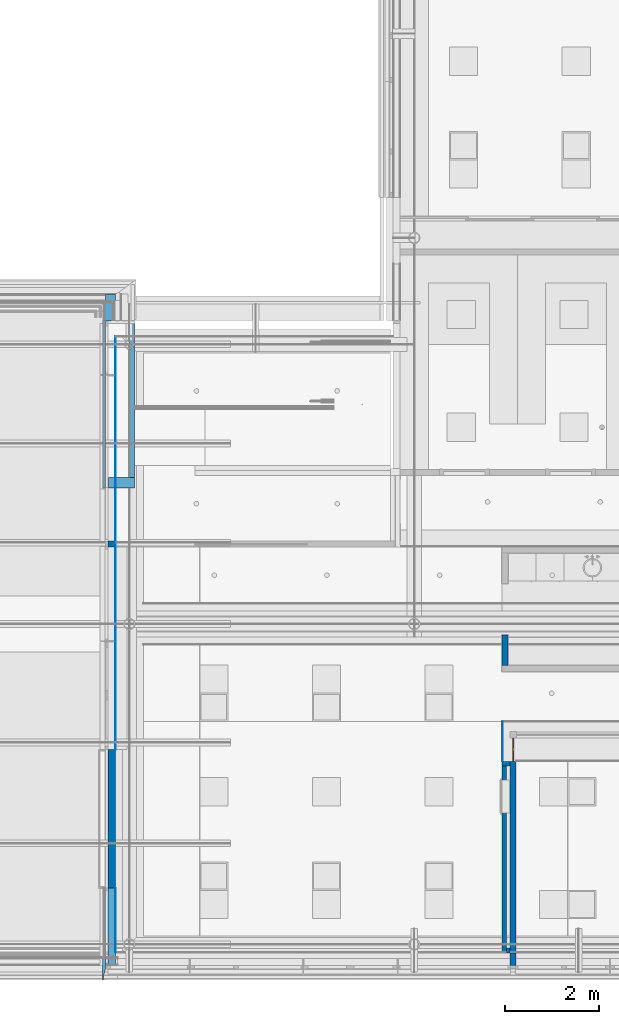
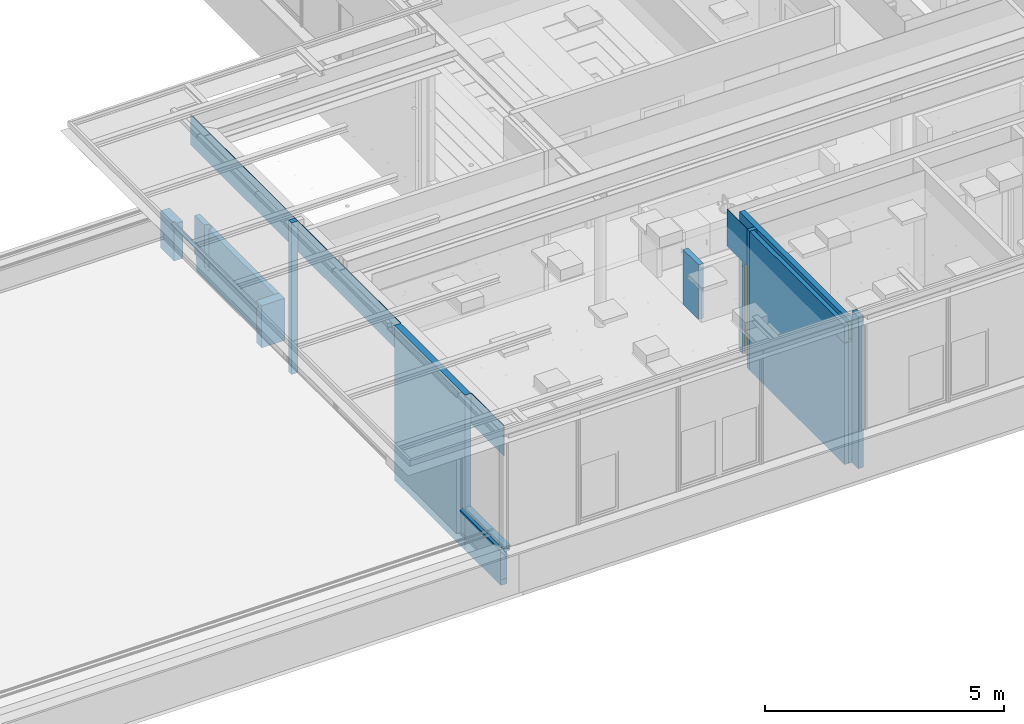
# One storey, part 39 of 260: 17 walls, 1 window, 2 openings.
"""IFC2X3 building model written with IfcOpenShell, lengths in millimetres."""

from ifc_helpers import new_model, entity, si_unit, converted_unit, derived_unit, money_unit, direction, frame, origin_with_axes, place, context, subcontext, project, spatial, open_shell, faceted_brep, surface_model, material, type_object, element, fill, save


model = new_model("IFC2X3")

# Units and contexts
model_context = context("Model", 3, precision=0.01, world=origin_with_axes(), true_north=direction((0.0, 1.0)))
plan_context = context("Plan", 3, precision=0.01, world=origin_with_axes(), true_north=direction((0.0, 1.0)))
body_context = subcontext(model_context, "Body", "Model", "MODEL_VIEW")
ifc_project = project(units=[si_unit("LENGTHUNIT", "METRE", prefix="MILLI"), si_unit("AREAUNIT", "SQUARE_METRE"), si_unit("VOLUMEUNIT", "CUBIC_METRE"), converted_unit("PLANEANGLEUNIT", "DEGREE", entity("IfcPlaneAngleMeasure", 0.0174532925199), si_unit("PLANEANGLEUNIT", "RADIAN"), dimensions=[0, 0, 0, 0, 0, 0, 0]), money_unit("EUR"), converted_unit("TIMEUNIT", "Year", entity("IfcTimeMeasure", 31556926.0), si_unit("TIMEUNIT", "SECOND"), dimensions=[0, 0, 1, 0, 0, 0, 0]), si_unit("MASSUNIT", "GRAM", prefix="KILO"), si_unit("THERMODYNAMICTEMPERATUREUNIT", "DEGREE_CELSIUS"), si_unit("LUMINOUSINTENSITYUNIT", "LUMEN"), si_unit("ENERGYUNIT", "JOULE", prefix="MEGA"), derived_unit("THERMALCONDUCTANCEUNIT", [(si_unit("POWERUNIT", "WATT"), 1), (si_unit("LENGTHUNIT", "METRE"), -1), (si_unit("THERMODYNAMICTEMPERATUREUNIT", "KELVIN"), -1)]), derived_unit("SPECIFICHEATCAPACITYUNIT", [(si_unit("ENERGYUNIT", "JOULE"), 1), (si_unit("MASSUNIT", "GRAM", prefix="KILO"), -1), (si_unit("THERMODYNAMICTEMPERATUREUNIT", "KELVIN"), -1)]), derived_unit("MASSDENSITYUNIT", [(si_unit("MASSUNIT", "GRAM", prefix="KILO"), 1), (si_unit("VOLUMEUNIT", "CUBIC_METRE"), -1)])], contexts=[model_context, plan_context])

# Site, building, storey
site_placement = place(None, origin_with_axes())
site = spatial("IfcSite", under=ifc_project, at=site_placement, Name="Site", CompositionType="ELEMENT")
building_placement = place(site_placement, origin_with_axes())
building = spatial("IfcBuilding", under=site, at=building_placement, Name="Naam gebouw", CompositionType="ELEMENT")
storey_placement = place(building_placement, frame((0.0, 0.0, 3960.0), z_axis=(0.0, 0.0, 1.0), x_axis=(1.0, 0.0, 0.0)))
storey = spatial("IfcBuildingStorey", under=building, at=storey_placement, Name="verdieping", CompositionType="ELEMENT", Elevation=3960.0)

# Wall, opening, window
ifc_material_1 = material(Name="ALG - LICHTE SCHEIDINGSWAND")
wall_type_1 = type_object("IfcWallType", Name="ALG LSW 125 125", PredefinedType="NOTDEFINED")
wall_1_placement = place(storey_placement, frame((26745.0, 9825.0, 0.0), z_axis=(0.0, 0.0, 1.0), x_axis=(0.0, -1.0, 0.0)))
wall_1 = element("IfcWall", 1, at=wall_1_placement, inside=storey, type_object=wall_type_1, material=ifc_material_1, Name="22_GF 125 ECO DGS/2.75.2A", context=body_context, shape_type="Brep", body=[
    faceted_brep([(125.0, 0.0, 0.0), (125.0, 0.0, 2600.0), (132.0, 0.0, 2600.0), (132.0, 0.0, 0.0), (0.0, -125.0, 2600.0), (0.0, -125.0, 0.0), (132.0, -125.0, 2600.0), (132.0, -125.0, 0.0)], [[[0, 1, 2, 3]], [[4, 1, 0, 5]], [[1, 4, 6, 2]], [[7, 3, 2, 6]], [[5, 0, 3, 7]], [[4, 5, 7, 6]]]),
    faceted_brep([(4705.0, 0.0, 0.0), (625.0, 0.0, 0.0), (625.0, 0.0, 2600.0), (625.0, 0.0, 2612.0), (0.0, 0.0, 2612.0), (0.0, 0.0, 3560.0), (4693.0, 0.0, 3560.0), (4693.0, 0.0, 3112.0), (4345.0, 0.0, 3112.0), (4345.0, 0.0, 3100.0), (4705.0, 0.0, 3100.0), (625.0, -125.0, 0.0), (4705.0, -125.0, 0.0), (625.0, -125.0, 2600.0), (625.0, -125.0, 2612.0), (0.0, -125.0, 2612.0), (0.0, -125.0, 3560.0), (4693.0, -125.0, 3560.0), (4693.0, -125.0, 3112.0), (4345.0, -125.0, 3112.0), (4345.0, -125.0, 3100.0), (4705.0, -125.0, 3100.0)], [[[0, 1, 2, 3, 4, 5, 6, 7, 8, 9, 10]], [[11, 1, 0, 12]], [[13, 2, 1, 11]], [[3, 2, 13, 14]], [[15, 4, 3, 14]], [[4, 15, 16, 5]], [[16, 17, 6, 5]], [[18, 7, 6, 17]], [[8, 7, 18, 19]], [[9, 8, 19, 20]], [[9, 20, 21, 10]], [[0, 10, 21, 12]], [[17, 16, 15, 14, 13, 11, 12, 21, 20, 19, 18]]]),
])
opening_1_placement = place(wall_1_placement, frame((378.5, 0.0, 0.0), z_axis=(0.0, 0.0, 1.0), x_axis=(1.0, 0.0, 0.0)))
opening_1 = element("IfcOpeningElement", 2, at=opening_1_placement, cuts=wall_1, Name="31_10.03", context=body_context, shape_type="Brep", body=[
    faceted_brep([(246.5, 125.0, 0.0), (246.5, 125.0, 2600.0), (246.5, -72.5, 2600.0), (246.5, -72.5, 0.0), (-246.5, 125.0, 0.0), (-246.5, 125.0, 2600.0), (-246.5, -72.5, 2600.0), (-246.5, -72.5, 0.0)], [[[0, 1, 2, 3]], [[0, 4, 5, 1]], [[1, 5, 6, 2]], [[3, 2, 6, 7]], [[4, 0, 3, 7]], [[5, 4, 7, 6]]]),
    faceted_brep([(246.5, -250.0, 2600.0), (246.5, -250.0, 0.0), (246.5, -72.5, 0.0), (246.5, -72.5, 2600.0), (-246.5, -250.0, 2600.0), (-246.5, -250.0, 0.0), (-246.5, -72.5, 0.0), (-246.5, -72.5, 2600.0)], [[[0, 1, 2, 3]], [[0, 4, 5, 1]], [[1, 5, 6, 2]], [[3, 2, 6, 7]], [[4, 0, 3, 7]], [[5, 4, 7, 6]]]),
])
window_style = type_object("IfcWindowStyle", Name="R1 25", ConstructionType="NOTDEFINED", OperationType="SINGLE_PANEL", ParameterTakesPrecedence=False, Sizeable=False)
window_placement = place(opening_1_placement, frame((-246.5, 0.0, 0.0), z_axis=(0.0, 0.0, 1.0), x_axis=(1.0, 0.0, 0.0)))
window = element("IfcWindow", 3, at=window_placement, inside=storey, type_object=window_style, Name="31_10.03", ObjectType="WINDOW", OverallHeight=2600.0, OverallWidth=493.0, context=body_context, shape_type="SurfaceModel", body=[
    faceted_brep([(20.0, -72.5, 2580.0), (20.0, -52.5, 2580.0), (0.0, -52.5, 2580.0), (0.0, -72.5, 2580.0), (20.0, -72.5, 20.0), (20.0, -52.5, 20.0), (0.0, -52.5, 20.0), (0.0, -72.5, 20.0)], [[[0, 1, 2, 3]], [[4, 5, 1, 0]], [[1, 5, 6, 2]], [[3, 2, 6, 7]], [[0, 3, 7, 4]], [[7, 6, 5, 4]]]),
    faceted_brep([(473.0, -72.5, 20.0), (473.0, -52.5, 20.0), (493.0, -52.5, 20.0), (493.0, -72.5, 20.0), (473.0, -72.5, 2580.0), (473.0, -52.5, 2580.0), (493.0, -52.5, 2580.0), (493.0, -72.5, 2580.0)], [[[0, 1, 2, 3]], [[4, 5, 1, 0]], [[1, 5, 6, 2]], [[3, 2, 6, 7]], [[0, 3, 7, 4]], [[7, 6, 5, 4]]]),
    faceted_brep([(20.0, -72.5, 20.0), (20.0, -52.5, 20.0), (0.0, -52.5, 20.0), (0.0, -72.5, 20.0), (473.0, -72.5, 20.0), (473.0, -52.5, 20.0), (493.0, -52.5, 20.0), (493.0, -52.5, 0.0), (0.0, -52.5, 0.0), (0.0, -72.5, 0.0), (493.0, -72.5, 0.0), (493.0, -72.5, 20.0)], [[[0, 1, 2, 3]], [[4, 5, 1, 0]], [[1, 5, 6, 7, 8, 2]], [[3, 2, 8, 9]], [[0, 3, 9, 10, 11, 4]], [[11, 6, 5, 4]], [[10, 7, 6, 11]], [[9, 8, 7, 10]]]),
    faceted_brep([(473.0, -72.5, 2580.0), (473.0, -52.5, 2580.0), (493.0, -52.5, 2580.0), (493.0, -72.5, 2580.0), (20.0, -72.5, 2580.0), (20.0, -52.5, 2580.0), (0.0, -52.5, 2580.0), (0.0, -52.5, 2600.0), (493.0, -52.5, 2600.0), (493.0, -72.5, 2600.0), (0.0, -72.5, 2600.0), (0.0, -72.5, 2580.0)], [[[0, 1, 2, 3]], [[4, 5, 1, 0]], [[1, 5, 6, 7, 8, 2]], [[3, 2, 8, 9]], [[0, 3, 9, 10, 11, 4]], [[11, 6, 5, 4]], [[10, 7, 6, 11]], [[9, 8, 7, 10]]]),
    surface_model("IfcShellBasedSurfaceModel", [(20.0, -72.5, 20.0), (473.0, -72.5, 20.0), (473.0, -72.5, 2580.0), (20.0, -72.5, 2580.0)], [open_shell([[[0, 1, 2, 3]]])]),
    surface_model("IfcShellBasedSurfaceModel", [(20.0, -52.5, 20.0), (20.0, -52.5, 2580.0), (473.0, -52.5, 2580.0), (473.0, -52.5, 20.0)], [open_shell([[[0, 1, 2, 3]]])]),
])
fill(opening_1, window)

# Walls
wall_2_placement = place(storey_placement, frame((26570.0, 11240.0000434, 0.0), z_axis=(0.0, 0.0, 1.0), x_axis=(0.0, 1.0, 0.0)))
element("IfcWall", 4, at=wall_2_placement, inside=storey, type_object=wall_type_1, material=ifc_material_1, Name="22_GF 125 ECO DGS/2.75.3A", context=body_context, shape_type="Brep", body=[
    faceted_brep([(0.0, 0.0, 2.0), (650.0, 0.0, 2.0), (650.0, 0.0, 1400.0), (0.0, 0.0, 1400.0), (650.0, 125.0, 2.0), (0.0, 125.0, 2.0), (650.0, 125.0, 1400.0), (0.0, 125.0, 1400.0)], [[[0, 1, 2, 3]], [[4, 1, 0, 5]], [[1, 4, 6, 2]], [[7, 3, 2, 6]], [[5, 0, 3, 7]], [[4, 5, 7, 6]]]),
])
wall_3_placement = place(storey_placement, frame((18205.0, 13765.0000434, 0.0), z_axis=(0.0, 0.0, 1.0), x_axis=(-1.0, 0.0, 0.0)))
element("IfcWall", 5, at=wall_3_placement, inside=storey, type_object=wall_type_1, material=ifc_material_1, Name="22_GF 125 ECO DGS/2.75.2A", context=body_context, shape_type="Brep", body=[
    faceted_brep([(0.0, 0.0, 3880.0), (0.0, -125.0, 3880.0), (150.0, -125.0, 3880.0), (150.0, 0.0, 3880.0), (0.0, 0.0, 0.0), (0.0, -125.0, 0.0), (150.0, -125.0, 0.0), (150.0, 0.0, 0.0)], [[[0, 1, 2, 3]], [[4, 5, 1, 0]], [[1, 5, 6, 2]], [[7, 3, 2, 6]], [[4, 0, 3, 7]], [[5, 4, 7, 6]]]),
])

# Wall, opening
wall_4_placement = place(storey_placement, frame((18615.0, 18523.0, -400.0), z_axis=(0.0, 0.0, 1.0), x_axis=(0.0, -1.0, 0.0)))
wall_4 = element("IfcWall", 6, at=wall_4_placement, inside=storey, type_object=wall_type_1, material=ifc_material_1, Name="21_GF 125 ECO DGS/2.75.3A", context=body_context, shape_type="Brep", body=[
    faceted_brep([(346.243334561, -110.708946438, 320.000000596), (539.756664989, -110.708949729, 320.000000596), (539.849999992, -110.0, 320.000000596), (536.549916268, -84.9333754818, 320.000000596), (526.874560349, -61.575, 320.000000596), (511.48329175, -41.5167082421, 320.000000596), (491.424999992, -26.1254396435, 320.000000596), (468.06662451, -16.4500837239, 320.000000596), (442.999999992, -13.15, 320.000000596), (417.933375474, -16.4500837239, 320.000000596), (394.574999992, -26.1254396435, 320.000000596), (374.516708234, -41.5167082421, 320.000000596), (359.125439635, -61.575, 320.000000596), (349.450083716, -84.9333754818, 320.000000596), (346.149999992, -110.0, 320.000000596), (3023.00003837, -110.708991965, 320.0), (0.0, -110.708940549, 320.0), (0.0, -110.708940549, 0.0), (3023.00003837, -110.708991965, 0.0), (537.875212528, -125.0, 320.000000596), (537.875212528, -125.0, 1400.0), (539.849999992, -110.0, 1400.0), (536.549916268, -84.9333754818, 1400.0), (526.874560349, -61.575, 1400.0), (511.48329175, -41.5167082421, 1400.0), (491.424999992, -26.1254396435, 1400.0), (468.06662451, -16.4500837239, 1400.0), (442.999999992, -13.15, 1400.0), (417.933375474, -16.4500837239, 1400.0), (394.574999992, -26.1254396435, 1400.0), (374.516708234, -41.5167082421, 1400.0), (359.125439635, -61.575, 1400.0), (349.450083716, -84.9333754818, 1400.0), (346.149999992, -110.0, 1400.0), (348.124787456, -125.0, 1400.0), (348.124787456, -125.0, 320.000000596), (3277.99995655, -125.0, 320.0), (3023.00003837, 0.0, 320.0), (3277.99995655, 0.0, 320.0), (0.0, -125.0, 320.0), (0.0, -125.0, 400.0), (0.0, 0.0, 400.0), (0.0, 0.0, 0.0), (3023.00003837, 0.0, 0.0), (3277.99995655, -125.0, 1400.0), (3277.99995655, 0.0, 1400.0), (-62.0, 0.0, 1400.0), (-62.0, -125.0, 1400.0), (-62.0, -125.0, 400.0), (-62.0, 0.0, 400.0)], [[[0, 1, 2, 3, 4, 5, 6, 7, 8, 9, 10, 11, 12, 13, 14]], [[15, 1, 0, 16, 17, 18]], [[19, 20, 21, 2, 1]], [[2, 21, 22, 3]], [[3, 22, 23, 4]], [[4, 23, 24, 5]], [[5, 24, 25, 6]], [[6, 25, 26, 7]], [[7, 26, 27, 8]], [[8, 27, 28, 9]], [[9, 28, 29, 10]], [[10, 29, 30, 11]], [[11, 30, 31, 12]], [[12, 31, 32, 13]], [[13, 32, 33, 14]], [[14, 33, 34, 35, 0]], [[36, 19, 1, 15, 37, 38]], [[16, 0, 35, 39]], [[17, 16, 39, 40, 41, 42]], [[17, 42, 43, 18]], [[15, 18, 43, 37]], [[44, 20, 19, 36]], [[30, 29, 28, 27, 26, 25, 24, 23, 22, 21, 20, 44, 45, 46, 47, 34, 33, 32, 31]], [[39, 35, 34, 47, 48, 40]], [[45, 38, 37, 43, 42, 41, 49, 46]], [[44, 36, 38, 45]], [[48, 49, 41, 40]], [[49, 48, 47, 46]]]),
])
opening_2_placement = place(wall_4_placement, frame((1423.0, 0.0, -3560.0), z_axis=(0.0, 0.0, 1.0), x_axis=(1.0, 0.0, 0.0)))
element("IfcOpeningElement", 7, at=opening_2_placement, cuts=wall_4, Name="32_-", context=body_context, shape_type="Brep", body=[
    faceted_brep([(-800.0, -125.0, 0.0), (-800.0, -125.0, 2600.0), (-800.0, 250.0, 2600.0), (-800.0, 250.0, 0.0), (800.0, -125.0, 0.0), (800.0, -125.0, 2600.0), (800.0, 250.0, 2600.0), (800.0, 250.0, 0.0)], [[[0, 1, 2, 3]], [[0, 4, 5, 1]], [[1, 5, 6, 2]], [[3, 2, 6, 7]], [[4, 0, 3, 7]], [[5, 4, 7, 6]]]),
])

# Walls
wall_5_placement = place(storey_placement, frame((26682.5, 5120.0, 0.0), z_axis=(0.0, 0.0, 1.0), x_axis=(0.0, -1.0, 0.0)))
element("IfcWall", 8, at=wall_5_placement, inside=storey, type_object=wall_type_1, material=ifc_material_1, Name="22_GF 125 ECO DGS/2.75.2A", context=body_context, shape_type="Brep", body=[
    faceted_brep([(0.0, 62.5, 3880.0), (0.0, -62.5, 3880.0), (270.0, -62.5, 3880.0), (270.0, 62.5, 3880.0), (0.0, 62.5, 0.0), (0.0, -62.5, 0.0), (270.0, -62.5, 0.0), (270.0, 62.5, 0.0)], [[[0, 1, 2, 3]], [[4, 5, 1, 0]], [[1, 5, 6, 2]], [[7, 3, 2, 6]], [[4, 0, 3, 7]], [[5, 4, 7, 6]]]),
])
wall_type_2 = type_object("IfcWallType", Name="44 koof 50", PredefinedType="NOTDEFINED")
wall_6_placement = place(storey_placement, frame((26445.0, 10050.0, 2600.0), z_axis=(0.0, 0.0, 1.0), x_axis=(0.0, -1.0, 0.0)))
element("IfcWall", 9, at=wall_6_placement, inside=storey, type_object=wall_type_2, material=ifc_material_1, Name="21_22 betonwand", context=body_context, shape_type="Brep", body=[
    faceted_brep([(850.0, 12.0, 960.0), (850.0, 12.0, 12.0), (12.0, 12.0, 12.0), (12.0, 12.0, 960.0), (850.0, 0.0, 960.0), (850.0, 0.0, 12.0), (12.0, 0.0, 12.0), (12.0, 0.0, 960.0)], [[[0, 1, 2, 3]], [[4, 5, 1, 0]], [[5, 6, 2, 1]], [[3, 2, 6, 7]], [[3, 7, 4, 0]], [[7, 6, 5, 4]]]),
])
wall_type_3 = type_object("IfcWallType", Name="ALG LSW 100 voorzetwand 100", PredefinedType="NOTDEFINED")
wall_7_placement = place(storey_placement, frame((26745.0, 5120.0, 0.0), z_axis=(0.0, 0.0, 1.0), x_axis=(-1.0, 0.0, 0.0)))
element("IfcWall", 10, at=wall_7_placement, inside=storey, type_object=wall_type_3, material=ifc_material_1, Name="22_GF 125 ECO DGS/2.75.2A", context=body_context, shape_type="Brep", body=[
    faceted_brep([(200.0, -100.0, 3100.0), (200.0, 0.0, 3100.0), (125.0, 0.0, 3100.0), (125.0, -100.0, 3100.0), (200.0, -100.0, 0.0), (200.0, 0.0, 0.0), (125.0, 0.0, 0.0), (125.0, -100.0, 0.0)], [[[0, 1, 2, 3]], [[1, 0, 4, 5]], [[1, 5, 6, 2]], [[7, 3, 2, 6]], [[4, 0, 3, 7]], [[5, 4, 7, 6]]]),
])
wall_8_placement = place(storey_placement, frame((26445.0, 9200.0, 0.0), z_axis=(0.0, 0.0, 1.0), x_axis=(0.0, -1.0, 0.0)))
element("IfcWall", 11, at=wall_8_placement, inside=storey, type_object=wall_type_3, material=ifc_material_1, Name="22_GF 125 ECO DGS/2.75.2A", context=body_context, shape_type="Brep", body=[
    faceted_brep([(3720.0, 100.0, 3112.0), (3720.0, 100.0, 3100.0), (4080.0, 100.0, 3100.0), (4080.0, 100.0, 0.0), (100.0, 100.0, 0.0), (100.0, 100.0, 3560.0), (4068.0, 100.0, 3560.0), (4068.0, 100.0, 3112.0), (3720.0, 0.0, 3100.0), (3720.0, 0.0, 3112.0), (4080.0, 0.0, 3100.0), (4080.0, 0.0, 0.0), (100.0, 0.0, 0.0), (100.0, 0.0, 3560.0), (4068.0, 0.0, 3560.0), (4068.0, 0.0, 3112.0)], [[[0, 1, 2, 3, 4, 5, 6, 7]], [[8, 1, 0, 9]], [[2, 1, 8, 10]], [[11, 3, 2, 10]], [[3, 11, 12, 4]], [[12, 13, 5, 4]], [[14, 6, 5, 13]], [[14, 15, 7, 6]], [[9, 0, 7, 15]], [[8, 9, 15, 14, 13, 12, 11, 10]]]),
])
wall_9_placement = place(storey_placement, frame((26745.0, 9200.0, 0.0), z_axis=(0.0, 0.0, 1.0), x_axis=(-1.0, 0.0, 0.0)))
element("IfcWall", 12, at=wall_9_placement, inside=storey, type_object=wall_type_3, material=ifc_material_1, Name="22_GF 125 ECO DGS/2.75.2A", context=body_context, shape_type="Brep", body=[
    faceted_brep([(125.0, 0.0, 3560.0), (125.0, 100.0, 3560.0), (125.0, 100.0, 0.0), (125.0, 0.0, 0.0), (300.0, 100.0, 3560.0), (300.0, 0.0, 3560.0), (300.0, 100.0, 0.0), (300.0, 0.0, 0.0)], [[[0, 1, 2, 3]], [[4, 1, 0, 5]], [[6, 2, 1, 4]], [[7, 3, 2, 6]], [[0, 3, 7, 5]], [[6, 4, 5, 7]]]),
])
ifc_material_2 = material(Name="Isolatie - Steenwol hard")
wall_type_4 = type_object("IfcWallType", Name="Isolatie - Steenwol hard 150", PredefinedType="NOTDEFINED")
wall_10_placement = place(storey_placement, frame((18205.0, 9450.00003368, -80.0), z_axis=(0.0, 0.0, 1.0), x_axis=(0.0, -1.0, 0.0)))
element("IfcWall", 13, at=wall_10_placement, inside=storey, type_object=wall_type_4, material=ifc_material_2, Name="21_22 kalkzandsteen", context=body_context, shape_type="Brep", body=[
    faceted_brep([(0.0, -150.0, 0.0), (0.0, -150.0, 3960.0), (0.0, 0.0, 3960.0), (0.0, 0.0, 0.0), (2950.00003368, -150.0, 0.0), (2950.00003368, -150.0, 3960.0), (2950.00003368, 0.0, 3960.0), (2950.00003368, 0.0, 0.0)], [[[0, 1, 2, 3]], [[4, 5, 1, 0]], [[5, 6, 2, 1]], [[3, 2, 6, 7]], [[0, 3, 7, 4]], [[7, 6, 5, 4]]]),
])
ifc_material_3 = material(Name="Isolatie - Glaswol zacht")
wall_type_5 = type_object("IfcWallType", Name="Isolatie - Glaswol zacht 150", PredefinedType="NOTDEFINED")
wall_11_placement = place(storey_placement, frame((18205.0, 6500.0, -80.0), z_axis=(0.0, 0.0, 1.0), x_axis=(0.0, -1.0, 0.0)))
element("IfcWall", 14, at=wall_11_placement, inside=storey, type_object=wall_type_5, material=ifc_material_3, Name="21_22 kalkzandsteen", context=body_context, shape_type="Brep", body=[
    faceted_brep([(1632.00000672, -150.0, 942.000004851), (1632.00000672, -150.0, 991.99999286), (1512.00000239, -150.0, 991.99999286), (1512.00000239, -150.0, 942.000004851), (1632.00000672, 0.0, 942.000004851), (1632.00000672, 0.0, 991.99999286), (1512.00000239, 0.0, 991.99999286), (1512.00000239, 0.0, 942.000004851)], [[[0, 1, 2, 3]], [[4, 5, 1, 0]], [[5, 6, 2, 1]], [[6, 7, 3, 2]], [[7, 4, 0, 3]], [[4, 7, 6, 5]]]),
    faceted_brep([(1499.99999935, -150.0, 19.9999982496), (1499.99999935, 0.0, 19.999998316), (1500.0000043, 0.0, 139.999996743), (1500.0000043, -150.0, 139.99999678), (1499.99999935, 0.0, 0.0), (1499.99999935, -150.0, 0.0), (0.0, 0.0, 0.0), (0.0, 0.0, 1080.0), (1649.0, 0.0, 1080.0), (1649.0, 0.0, 1030.0), (1632.00001818, 0.0, 1030.0), (1512.00001744, 0.0, 1030.0), (1500.0000043, 0.0, 1030.0), (1500.0000043, 0.0, 573.535179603), (1497.0, 0.0, 573.53518517), (1496.99999996, 0.0, 140.000000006), (1478.00000612, 0.0, 489.999999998), (1478.00000612, 0.0, 1019.99999999), (1470.00000612, 0.0, 1019.99999999), (1470.00000612, 0.0, 489.999999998), (1496.99999996, -150.0, 139.999999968), (1497.0, -150.0, 573.5351851), (1500.0000043, -150.0, 573.535179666), (1500.0000043, -150.0, 1030.0), (1512.00001744, -150.0, 1030.0), (1632.00001818, -150.0, 1030.0), (1649.0, -150.0, 1030.0), (1649.0, -150.0, 1080.0), (0.0, -150.0, 1080.0), (0.0, -150.0, 0.0), (1478.00000612, -150.0, 489.999999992), (1470.00000612, -150.0, 489.999999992), (1470.00000612, -150.0, 1019.99999994), (1478.00000612, -150.0, 1019.99999994)], [[[0, 1, 2, 3]], [[4, 1, 0, 5]], [[1, 4, 6, 7, 8, 9, 10, 11, 12, 13, 14, 15, 2], [16, 17, 18, 19]], [[2, 15, 20, 3]], [[5, 0, 3, 20, 21, 22, 23, 24, 25, 26, 27, 28, 29], [30, 31, 32, 33]], [[4, 5, 29, 6]], [[6, 29, 28, 7]], [[7, 28, 27, 8]], [[26, 9, 8, 27]], [[10, 9, 26, 25]], [[11, 10, 25, 24]], [[12, 11, 24, 23]], [[13, 12, 23, 22]], [[14, 13, 22, 21]], [[15, 14, 21, 20]], [[17, 16, 30, 33]], [[18, 17, 33, 32]], [[19, 18, 32, 31]], [[16, 19, 31, 30]]]),
])
wall_type_6 = type_object("IfcWallType", Name="Isolatie - Glaswol zacht 225", PredefinedType="NOTDEFINED")
wall_12_placement = place(storey_placement, frame((18615.0, 15020.0000434, -80.0), z_axis=(0.0, 0.0, 1.0), x_axis=(-1.0, 0.0, 0.0)))
element("IfcWall", 15, at=wall_12_placement, inside=storey, type_object=wall_type_6, material=ifc_material_3, Name="21_22 kalkzandsteen", context=body_context, shape_type="Brep", body=[
    faceted_brep([(0.0, -225.0, 1080.0), (559.0, -225.0, 1080.0), (559.0, 0.0, 1080.0), (0.0, 0.0, 1080.0), (0.0, -225.0, 0.0), (559.0, -225.0, 0.0), (559.0, 0.0, 0.0), (0.0, 0.0, 0.0)], [[[0, 1, 2, 3]], [[4, 5, 1, 0]], [[2, 1, 5, 6]], [[3, 2, 6, 7]], [[4, 0, 3, 7]], [[7, 6, 5, 4]]]),
])
wall_type_7 = type_object("IfcWallType", Name="Isolatie - Glaswol zacht 215", PredefinedType="NOTDEFINED")
wall_13_placement = place(storey_placement, frame((17993.0, 18585.0, 0.0), z_axis=(0.0, 0.0, 1.0), x_axis=(0.0, 1.0, 0.0)))
element("IfcWall", 16, at=wall_13_placement, inside=storey, type_object=wall_type_7, material=ifc_material_3, Name="21_22 kalkzandsteen", context=body_context, shape_type="Brep", body=[
    faceted_brep([(0.0, -215.0, 950.000406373), (564.0, -215.0, 950.000406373), (564.0, 0.0, 950.000406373), (0.0, 0.0, 950.000406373), (0.0, -215.0, 0.0), (564.0, -215.0, 0.0), (564.0, 0.0, 0.0), (0.0, 0.0, 0.0)], [[[0, 1, 2, 3]], [[4, 5, 1, 0]], [[2, 1, 5, 6]], [[3, 2, 6, 7]], [[4, 0, 3, 7]], [[7, 6, 5, 4]]]),
])
ifc_material_4 = material(Name="Gipsplaat")
wall_type_8 = type_object("IfcWallType", Name="Gipsplaat 12", PredefinedType="NOTDEFINED")
wall_14_placement = place(storey_placement, frame((18205.0, 6500.0, 3100.0), z_axis=(0.0, 0.0, 1.0), x_axis=(0.0, -1.0, 0.0)))
element("IfcWall", 17, at=wall_14_placement, inside=storey, type_object=wall_type_8, material=ifc_material_4, Name="21_23 betonwand", context=body_context, shape_type="Brep", body=[
    faceted_brep([(1368.0, 12.0, 0.0), (1368.0, 0.0, 0.0), (0.0, 0.0, 0.0), (0.0, 12.0, 0.0), (1368.0, 12.0, 780.0), (1368.0, 0.0, 780.0), (0.0, 0.0, 780.0), (0.0, 12.0, 780.0)], [[[0, 1, 2, 3]], [[1, 0, 4, 5]], [[1, 5, 6, 2]], [[7, 3, 2, 6]], [[4, 0, 3, 7]], [[5, 4, 7, 6]]]),
])
wall_15_placement = place(storey_placement, frame((18205.0, 18260.0, 3100.0), z_axis=(0.0, 0.0, 1.0), x_axis=(0.0, -1.0, 0.0)))
element("IfcWall", 18, at=wall_15_placement, inside=storey, type_object=wall_type_8, material=ifc_material_4, Name="21_23 betonwand", context=body_context, shape_type="Brep", body=[
    faceted_brep([(0.0, 12.0, 0.0), (8809.99996633, 12.0, 0.0), (8809.99996633, 0.0, 0.0), (0.0, 0.0, 0.0), (0.0, 12.0, 780.0), (8809.99996633, 12.0, 780.0), (8809.99996633, 0.0, 780.0), (0.0, 0.0, 780.0)], [[[0, 1, 2, 3]], [[4, 5, 1, 0]], [[2, 1, 5, 6]], [[3, 2, 6, 7]], [[4, 0, 3, 7]], [[7, 6, 5, 4]]]),
])
ifc_material_5 = material(Name="Metaal - Aluminium beige")
wall_type_9 = type_object("IfcWallType", Name="32 waterslag (negge 60mm) 60 x 90", PredefinedType="NOTDEFINED")
wall_16_placement = place(storey_placement, frame((17983.2278283, 4778.00000897, 1020.0), z_axis=(0.0, 0.0, 1.0), x_axis=(-0.00013230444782, 0.999999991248, 0.0)))
element("IfcWall", 19, at=wall_16_placement, inside=storey, type_object=wall_type_9, material=ifc_material_5, Name="21_31 waterslag", context=body_context, shape_type="Brep", body=[
    faceted_brep([(257.197084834, 46.0008699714, -35.0099703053), (-212.847571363, 46.0008699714, -35.0099702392), (-15.8132627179, 0.229920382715, -19.2193642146), (-15.6887981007, 0.229903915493, -19.2193585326), (13.9981635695, -6.66635898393, -16.8402038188), (13.997458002, -11.9992673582, -15.0003946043), (1722.00000644, -11.9992673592, -15.0003939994), (1722.00000644, 46.0008699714, -35.0099705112), (282.008599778, 46.0008699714, -35.0099703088), (282.008583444, 45.8859911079, -34.9703379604), (83.8872134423, -0.0110986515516, -19.1362146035), (58.8431797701, -0.00778521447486, -19.1373577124), (-235.99383295, 46.0008699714, -77.999995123), (-235.99383295, 46.0008699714, -36.8648871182), (280.008807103, 46.0008699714, -36.8354586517), (280.013502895, 46.0008699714, -77.9705650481), (267.013732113, 46.0008699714, -77.9720454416), (267.013732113, 46.0008699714, -79.9720462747), (282.013732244, 46.0008699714, -79.9703371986), (1722.00000644, 46.0008699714, -80.009969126), (72.0060709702, 46.0008699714, -80.0000038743), (72.0060709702, 46.0008699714, -72.5716841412), (-137.993944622, 46.0008699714, -72.5716841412), (-137.993944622, 46.0008699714, -80.0000038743), (-237.99383284, 46.0008699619, -79.9999949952), (-222.993829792, 46.0008699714, -79.9999949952), (-222.993829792, 46.0008699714, -77.999995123), (-235.994101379, 43.9719917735, -36.8648871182), (-47.475253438, 0.23410940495, -21.7567226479), (-47.350789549, 0.234092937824, -21.7567169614), (13.9971934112, -13.9991300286, -16.8402038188), (13.9971934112, -13.9991300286, 10.0000166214), (13.9974578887, -12.0001235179, 10.0000166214), (1722.00000644, -12.0001235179, 10.0000166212), (1722.00000644, 44.000864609, -78.0099675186), (1722.00000644, 31.0008699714, -78.0099675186), (1722.00000644, 31.0008699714, -80.009969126), (1722.00000644, -13.9991300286, 10.0000166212), (1722.00000644, -13.9991300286, -16.8402038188), (1722.00000644, 44.000864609, -36.8748605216), (282.011747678, 31.0008699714, -79.9703371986), (282.011523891, 31.0008699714, -78.0099675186), (282.013243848, 44.000864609, -78.0099675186), (282.008548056, 44.000864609, -36.8748605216), (282.007604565, 38.4873037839, -34.9703379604), (115.596897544, -0.0152939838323, -21.6705724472), (90.5131383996, -0.0119752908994, -21.6717188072), (280.008527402, 43.8867968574, -36.8354586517), (-235.994097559, 44.000864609, -77.999995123), (-235.994097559, 44.000864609, -36.8748605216), (280.008546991, 44.000864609, -36.8748605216), (280.013238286, 44.000864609, -77.9705650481), (267.013467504, 44.000864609, -77.9720454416), (267.013467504, 44.000864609, -78.0099675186), (267.011747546, 31.0008699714, -78.0099675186), (267.011747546, 31.0008699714, -79.9720462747), (72.0040864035, 31.0008699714, -80.0000038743), (72.0040864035, 31.0008699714, -78.0099675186), (72.0058063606, 44.000864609, -78.0099675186), (72.0058063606, 44.000864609, -72.5716841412), (-137.994209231, 44.000864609, -72.5716841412), (-137.995929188, 31.0008699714, -78.0099675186), (-137.995929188, 31.0008699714, -80.0000038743), (-137.994209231, 44.000864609, -78.0099675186), (-237.995889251, 31.0008699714, -80.009969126), (-222.995814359, 31.0008699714, -79.9999949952), (-222.995814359, 31.0008699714, -78.0099675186), (-222.994094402, 44.000864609, -78.0099675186)], [[[0, 1, 2, 3, 4, 5, 6, 7, 8, 9, 10, 11]], [[12, 13, 1, 0, 14, 15, 16, 17, 18, 8, 7, 19, 20, 21, 22, 23, 24, 25, 26]], [[27, 28, 2, 1, 13]], [[3, 2, 28, 29]], [[3, 29, 30, 4]], [[30, 31, 32, 5, 4]], [[6, 5, 32, 33]], [[34, 35, 36, 19, 7, 6, 33, 37, 38, 39]], [[8, 18, 40, 41, 42, 43, 44, 9]], [[10, 9, 44, 45]], [[11, 10, 45, 46]], [[0, 11, 46, 47, 14]], [[48, 49, 27, 13, 12]], [[15, 14, 47, 50, 51]], [[16, 15, 51, 52]], [[16, 52, 53, 54, 55, 17]], [[18, 17, 55, 40]], [[36, 56, 20, 19]], [[57, 58, 59, 21, 20, 56]], [[21, 59, 60, 22]], [[61, 62, 23, 22, 60, 63]], [[24, 23, 62, 64]], [[25, 24, 64, 65]], [[25, 65, 66, 67, 26]], [[26, 67, 48, 12]], [[28, 27, 49, 50, 47, 46, 45, 44, 43, 39, 38, 30, 29]], [[37, 31, 30, 38]], [[33, 32, 31, 37]], [[35, 34, 42, 41]], [[41, 40, 55, 54, 57, 56, 36, 35]], [[34, 39, 43, 42]], [[48, 67, 63, 60, 59, 58, 53, 52, 51, 50, 49]], [[58, 57, 54, 53]], [[66, 65, 64, 62, 61]], [[63, 67, 66, 61]]]),
])
wall_17_placement = place(storey_placement, frame((17983.0, 18595.0, 1020.0), z_axis=(0.0, 0.0, 1.0), x_axis=(0.0, -1.0, 0.0)))
element("IfcWall", 20, at=wall_17_placement, inside=storey, type_object=wall_type_9, material=ifc_material_5, Name="21_31 waterslag", context=body_context, shape_type="Brep", body=[
    faceted_brep([(0.0, -44.000864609, -36.8748605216), (0.0, 13.9991300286, -16.8402038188), (3564.99995655, 13.9991300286, -16.8402038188), (3564.99995655, -44.000864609, -36.8748605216), (0.0, 12.0001235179, 10.0000166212), (0.0, 13.9991300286, 10.0000166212), (0.0, -44.000864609, -78.0099675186), (0.0, -31.0008699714, -78.0099675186), (0.0, -31.0008699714, -80.009969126), (0.0, -46.0008699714, -80.009969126), (0.0, -46.0008699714, -35.0099705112), (0.0, 11.9992673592, -15.0003939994), (3564.99995655, 13.9991300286, 10.0000166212), (3564.99995655, -44.000864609, -78.0099675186), (3564.99995655, 12.0001235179, 10.0000166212), (3564.99995655, 11.9992673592, -15.0003939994), (3564.99995655, -46.0008699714, -35.0099705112), (3564.99995655, -46.0008699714, -80.009969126), (3564.99995655, -31.0008699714, -80.009969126), (3564.99995655, -31.0008699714, -78.0099675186)], [[[0, 1, 2, 3]], [[4, 5, 1, 0, 6, 7, 8, 9, 10, 11]], [[1, 5, 12, 2]], [[13, 3, 2, 12, 14, 15, 16, 17, 18, 19]], [[6, 0, 3, 13]], [[5, 4, 14, 12]], [[7, 6, 13, 19]], [[8, 7, 19, 18]], [[9, 8, 18, 17]], [[10, 9, 17, 16]], [[11, 10, 16, 15]], [[4, 11, 15, 14]]]),
])

save(model, "model.ifc")
